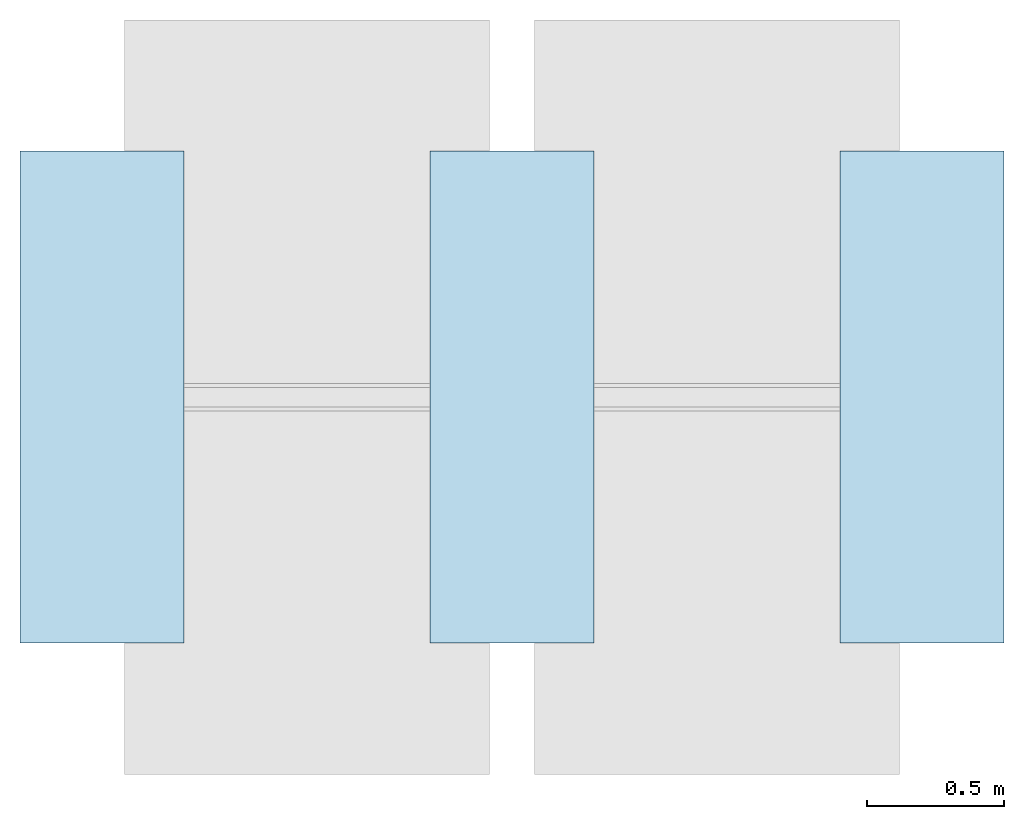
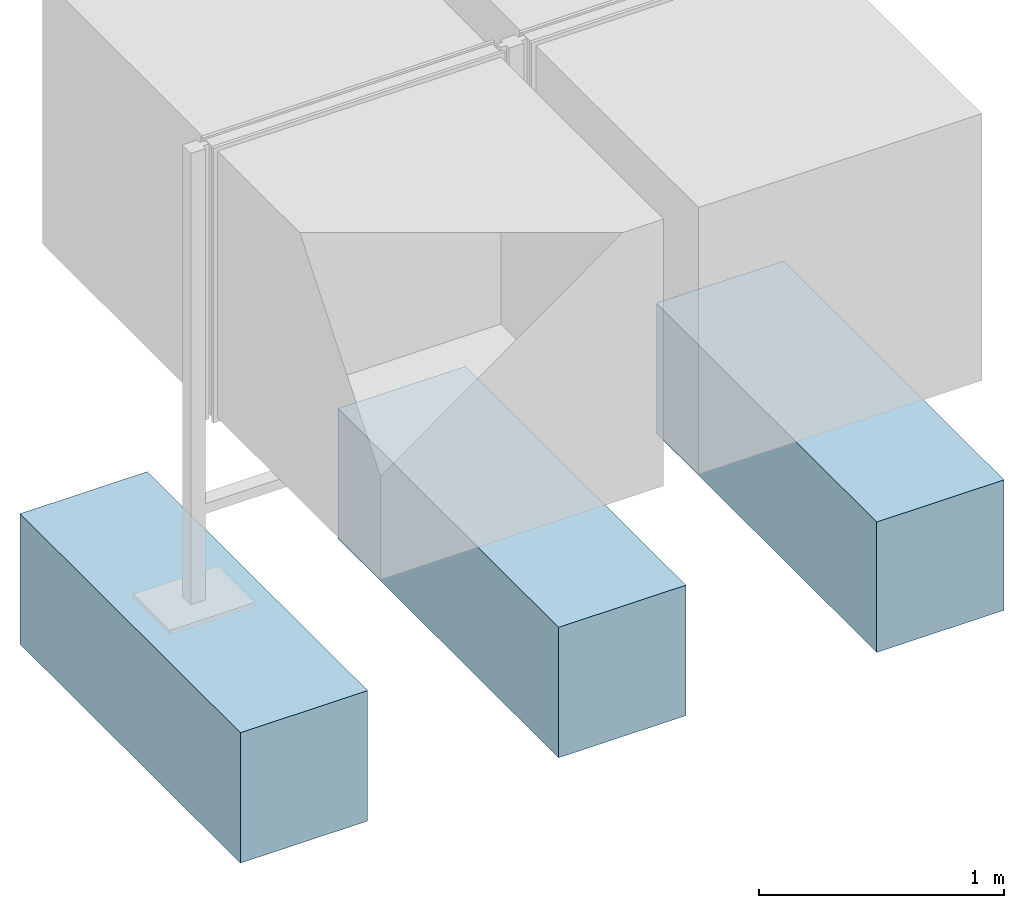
# One storey, incomplete: 3 slabs.
"""IFC4 building model written with IfcOpenShell, lengths in metres."""

from ifc_helpers import new_model, entity, si_unit, converted_unit, direction, frame, frame_2d, origin, origin_2d_with_axis, place, context, subcontext, project, spatial, rectangle, extrude, material, type_object, element, save


model = new_model("IFC4")

# Units and contexts
model_context = context("Model", 3, precision=1e-05, world=origin(), true_north=direction((6.123031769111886e-17, 1.0)))
body_context = subcontext(model_context, "Body", "Model", "MODEL_VIEW")
ifc_project = project(units=[si_unit("LENGTHUNIT", "METRE"), converted_unit("PLANEANGLEUNIT", "DEGREE", entity("IfcPlaneAngleMeasure", 0.017453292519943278), si_unit("PLANEANGLEUNIT", "RADIAN"), dimensions=[0, 0, 0, 0, 0, 0, 0]), si_unit("AREAUNIT", "SQUARE_METRE")], contexts=[model_context])

# Site, building, storey
site_placement = place(None, origin())
site = spatial("IfcSite", under=ifc_project, at=site_placement, Name="Default", CompositionType="ELEMENT")
building_placement = place(site_placement, origin())
building = spatial("IfcBuilding", under=site, at=building_placement, CompositionType="ELEMENT")
storey_placement = place(building_placement, origin())
storey = spatial("IfcBuildingStorey", under=building, at=storey_placement, Name="DB_Bezugshoehe_max_Bahnsteigkante", CompositionType="ELEMENT", Elevation=0.0)

# Slabs
ifc_material = material(Name="DB_Ortbeton", Category="DB_Beton")
slab_type = type_object("IfcSlabType", Name="DB_Vitrine_Fundament:DB_Vitrine_Fundament", PredefinedType="BASESLAB", material=ifc_material)
slab_1_placement = place(storey_placement, origin())
element("IfcSlab", 1, at=slab_1_placement, inside=storey, type_object=slab_type, Name="DB_Vitrine_Fundament:DB_Vitrine_Fundament", ObjectType="DB_Vitrine_Fundament:DB_Vitrine_Fundament", PredefinedType="BASESLAB", context=body_context, shape_type="SweptSolid", body=[
    extrude(rectangle(XDim=1.8, YDim=0.5999999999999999, at=origin_2d_with_axis()), frame((-0.0006257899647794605, 0.0, 0.04999999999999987), z_axis=(0.0, 0.0, 1.0), x_axis=(0.0, 1.0, 0.0)), (0.0, 0.0, 1.0), 0.5999999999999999),
    extrude(rectangle(XDim=0.5999999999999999, YDim=1.7999999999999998, at=origin_2d_with_axis()), frame((-0.0006257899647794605, 0.0, 0.0), z_axis=(0.0, 0.0, 1.0), x_axis=(-1.0, 0.0, 0.0)), (0.0, 0.0, 1.0), 0.04999999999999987),
])
slab_2_placement = place(storey_placement, origin())
element("IfcSlab", 2, at=slab_2_placement, inside=storey, type_object=slab_type, Name="DB_Vitrine_Fundament:DB_Vitrine_Fundament", ObjectType="DB_Vitrine_Fundament:DB_Vitrine_Fundament", PredefinedType="BASESLAB", context=body_context, shape_type="SweptSolid", body=[
    extrude(rectangle(XDim=1.8, YDim=0.5999999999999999, at=frame_2d((0.0, -8.326672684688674e-17), x_axis=(1.0, 0.0))), frame((1.49937421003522, 0.0, 0.04999999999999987), z_axis=(0.0, 0.0, 1.0), x_axis=(0.0, 1.0, 0.0)), (0.0, 0.0, 1.0), 0.5999999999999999),
    extrude(rectangle(XDim=0.6000000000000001, YDim=1.7999999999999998, at=origin_2d_with_axis()), frame((1.49937421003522, 0.0, 0.0), z_axis=(0.0, 0.0, 1.0), x_axis=(-1.0, 0.0, 0.0)), (0.0, 0.0, 1.0), 0.04999999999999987),
])
slab_3_placement = place(storey_placement, origin())
element("IfcSlab", 3, at=slab_3_placement, inside=storey, type_object=slab_type, Name="DB_Vitrine_Fundament:DB_Vitrine_Fundament", ObjectType="DB_Vitrine_Fundament:DB_Vitrine_Fundament", PredefinedType="BASESLAB", context=body_context, shape_type="SweptSolid", body=[
    extrude(rectangle(XDim=1.8, YDim=0.6000000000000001, at=origin_2d_with_axis()), frame((2.999374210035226, 0.0, 0.04999999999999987), z_axis=(0.0, 0.0, 1.0), x_axis=(0.0, 1.0, 0.0)), (0.0, 0.0, 1.0), 0.5999999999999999),
    extrude(rectangle(XDim=0.6000000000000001, YDim=1.7999999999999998, at=origin_2d_with_axis()), frame((2.999374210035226, 0.0, 0.0), z_axis=(0.0, 0.0, 1.0), x_axis=(-1.0, 0.0, 0.0)), (0.0, 0.0, 1.0), 0.04999999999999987),
])

save(model, "model.ifc")
